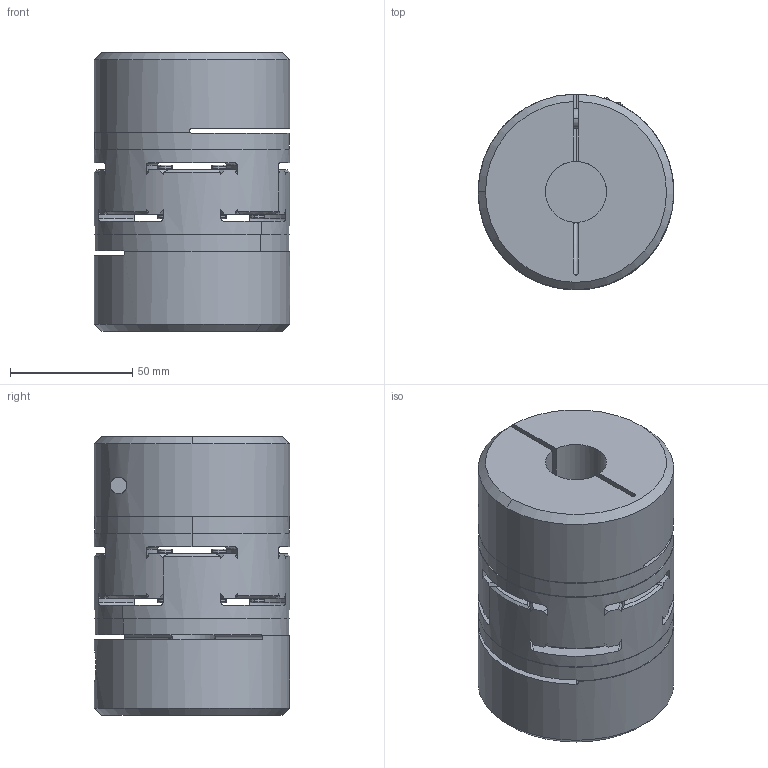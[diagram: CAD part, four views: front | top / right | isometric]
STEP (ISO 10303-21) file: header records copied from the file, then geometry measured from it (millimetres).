
FILE_DESCRIPTION((''),'2;1');
FILE_NAME('ROBA-ES__SIZE_38_TYPE_940_000','2021-05-11T11:18:03',('procad'),('Chr. Mayr GmbH + Co. KG'),'CREO PARAMETRIC BY PTC INC, 2019471','CREO PARAMETRIC BY PTC INC, 2019471','');
FILE_SCHEMA(('CONFIG_CONTROL_DESIGN','SHAPE_APPEARANCE_LAYERS_GROUPS'));
Length unit declared in the file: millimetre
Products named in the file (1): ROBA-ES__SIZE_38_TYPE_940_000
Bounding box: 80 x 80 x 114 mm (x, y, z)
Volume: 466075.2 mm3; surface area: 81098.6 mm2
Topology: 1 solids, 1 shells, 565 faces, 1507 edges, 948 vertices
Faces by surface type: plane 277, cylinder 124, cone 88, torus 76
Entity records: 23130 total; most frequent: CARTESIAN_POINT 4423, ORIENTED_EDGE 3014, DIRECTION 2987, EDGE_CURVE 1507, AXIS2_PLACEMENT_3D 1087, VERTEX_POINT 948, VECTOR 813, LINE 813
